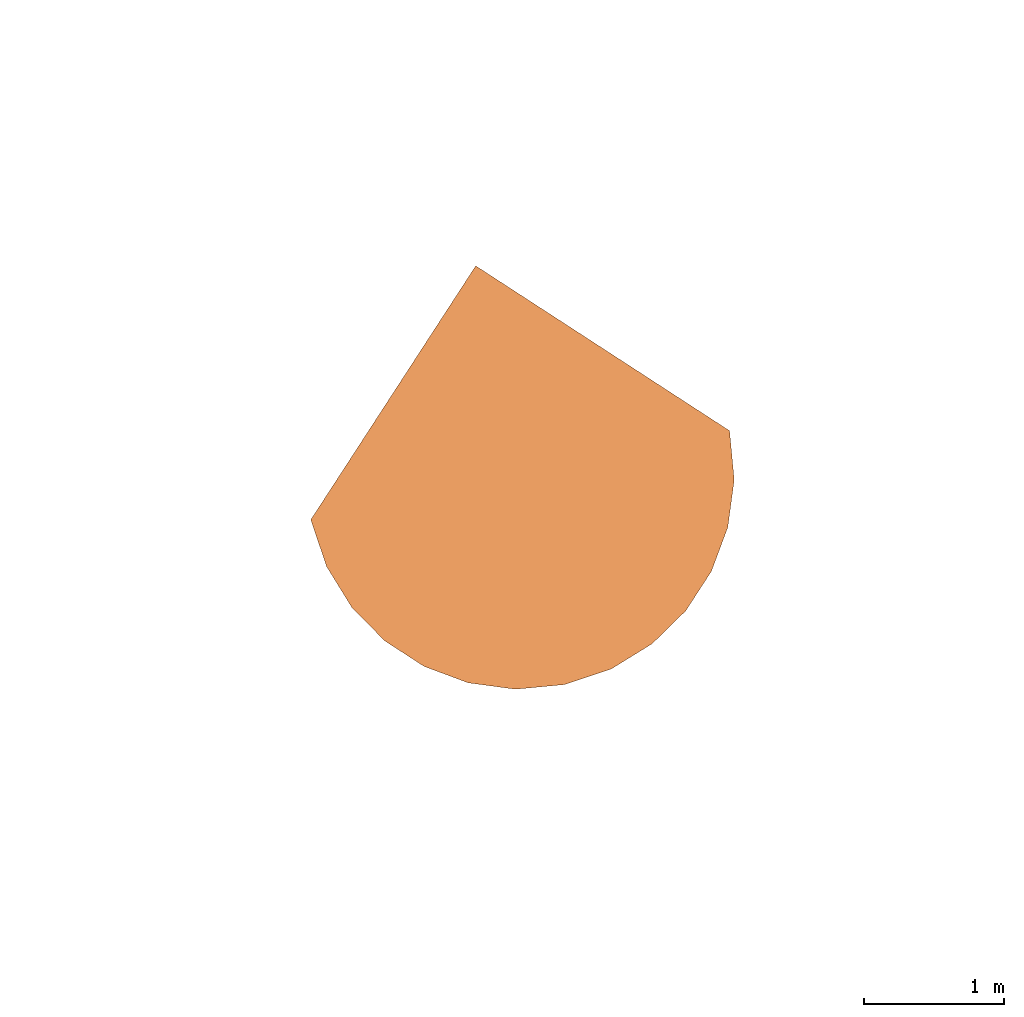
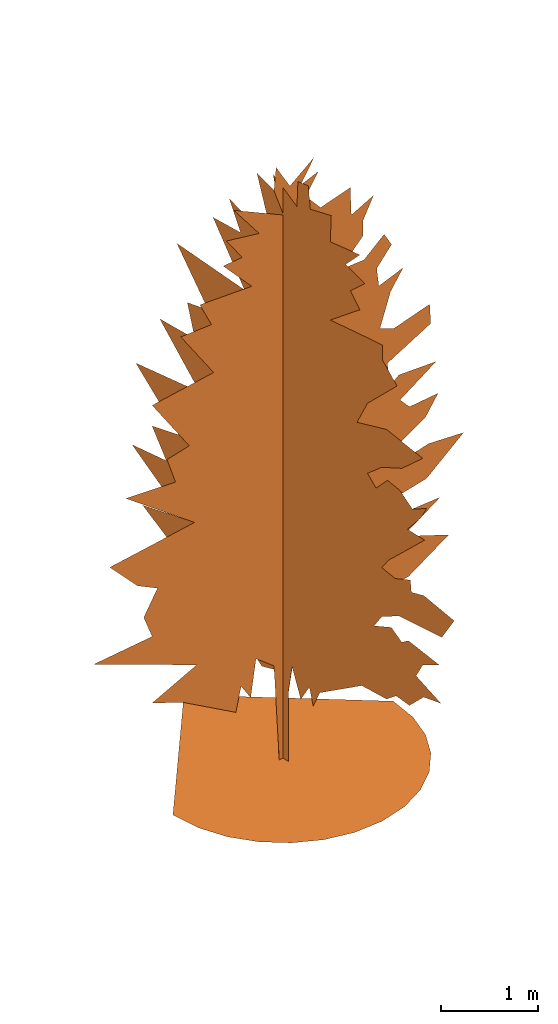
# One storey, part 17 of 17: 1 proxy.
"""IFC2X3 building model written with IfcOpenShell, lengths in centimetres."""

from ifc_helpers import new_model, entity, si_unit, converted_unit, derived_unit, direction, frame, origin, place, context, subcontext, project, spatial, face_set, surface_model, source, transform, mapped, material, type_object, type_shapes, element, save


model = new_model("IFC2X3")

# Units and contexts
model_context = context("Model", 3, precision=0.001, world=origin(), true_north=direction((6.12303176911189e-17, 1.0)))
body_context = subcontext(model_context, "Body", "Model", "MODEL_VIEW")
ifc_project = project(units=[si_unit("LENGTHUNIT", "METRE", prefix="CENTI"), si_unit("AREAUNIT", "SQUARE_METRE"), si_unit("VOLUMEUNIT", "CUBIC_METRE"), converted_unit("PLANEANGLEUNIT", "DEGREE", entity("IfcRatioMeasure", 0.0174532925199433), si_unit("PLANEANGLEUNIT", "RADIAN"), dimensions=[0, 0, 0, 0, 0, 0, 0]), si_unit("MASSUNIT", "GRAM", prefix="KILO"), derived_unit("MASSDENSITYUNIT", [(si_unit("MASSUNIT", "GRAM", prefix="KILO"), 1), (si_unit("LENGTHUNIT", "METRE"), -3)]), derived_unit("IONCONCENTRATIONUNIT", [(si_unit("MASSUNIT", "GRAM", prefix="KILO"), 1), (si_unit("LENGTHUNIT", "METRE"), -3)]), derived_unit("MOMENTOFINERTIAUNIT", [(si_unit("LENGTHUNIT", "METRE"), 4)]), si_unit("TIMEUNIT", "SECOND"), si_unit("FREQUENCYUNIT", "HERTZ"), si_unit("THERMODYNAMICTEMPERATUREUNIT", "DEGREE_CELSIUS"), derived_unit("THERMALTRANSMITTANCEUNIT", [(si_unit("MASSUNIT", "GRAM", prefix="KILO"), 1), (si_unit("THERMODYNAMICTEMPERATUREUNIT", "KELVIN"), -1), (si_unit("TIMEUNIT", "SECOND"), -3)]), derived_unit("THERMALCONDUCTANCEUNIT", [(si_unit("MASSUNIT", "GRAM", prefix="KILO"), 1), (si_unit("THERMODYNAMICTEMPERATUREUNIT", "KELVIN"), -1), (si_unit("TIMEUNIT", "SECOND"), -3), (si_unit("LENGTHUNIT", "METRE"), 1)]), derived_unit("VOLUMETRICFLOWRATEUNIT", [(si_unit("LENGTHUNIT", "METRE"), 3), (si_unit("TIMEUNIT", "SECOND"), -1)]), derived_unit("MASSFLOWRATEUNIT", [(si_unit("MASSUNIT", "GRAM", prefix="KILO"), 1), (si_unit("TIMEUNIT", "SECOND"), -1)]), derived_unit("ROTATIONALFREQUENCYUNIT", [(si_unit("TIMEUNIT", "SECOND"), -1)]), si_unit("ELECTRICCURRENTUNIT", "AMPERE"), si_unit("ELECTRICVOLTAGEUNIT", "VOLT"), si_unit("POWERUNIT", "WATT"), si_unit("FORCEUNIT", "NEWTON", prefix="KILO"), si_unit("ILLUMINANCEUNIT", "LUX"), si_unit("LUMINOUSFLUXUNIT", "LUMEN"), si_unit("LUMINOUSINTENSITYUNIT", "CANDELA"), derived_unit("USERDEFINED", [(si_unit("MASSUNIT", "GRAM", prefix="KILO"), -1), (si_unit("LENGTHUNIT", "METRE"), -2), (si_unit("TIMEUNIT", "SECOND"), 3), (si_unit("LUMINOUSFLUXUNIT", "LUMEN"), 1)]), derived_unit("USERDEFINED", [(si_unit("MASSUNIT", "GRAM", prefix="KILO"), 1), (si_unit("TIMEUNIT", "SECOND"), -3), (si_unit("LENGTHUNIT", "METRE"), 3), (si_unit("ELECTRICCURRENTUNIT", "AMPERE"), -2)]), derived_unit("SOUNDPOWERUNIT", [(si_unit("MASSUNIT", "GRAM", prefix="KILO"), 1), (si_unit("TIMEUNIT", "SECOND"), -3), (si_unit("LENGTHUNIT", "METRE"), 2)]), derived_unit("SOUNDPRESSUREUNIT", [(si_unit("MASSUNIT", "GRAM", prefix="KILO"), 1), (si_unit("LENGTHUNIT", "METRE"), -1), (si_unit("TIMEUNIT", "SECOND"), -2)]), derived_unit("LINEARVELOCITYUNIT", [(si_unit("LENGTHUNIT", "METRE"), 1), (si_unit("TIMEUNIT", "SECOND"), -1)]), si_unit("PRESSUREUNIT", "PASCAL"), derived_unit("USERDEFINED", [(si_unit("MASSUNIT", "GRAM", prefix="KILO"), 1), (si_unit("LENGTHUNIT", "METRE"), -2), (si_unit("TIMEUNIT", "SECOND"), -2)]), derived_unit("LINEARFORCEUNIT", [(si_unit("MASSUNIT", "GRAM", prefix="KILO"), 1), (si_unit("TIMEUNIT", "SECOND"), -2)]), derived_unit("PLANARFORCEUNIT", [(si_unit("MASSUNIT", "GRAM", prefix="KILO"), 1), (si_unit("LENGTHUNIT", "METRE"), -1), (si_unit("TIMEUNIT", "SECOND"), -2)]), derived_unit("SPECIFICHEATCAPACITYUNIT", [(si_unit("THERMODYNAMICTEMPERATUREUNIT", "KELVIN"), -1), (si_unit("LENGTHUNIT", "METRE"), 2), (si_unit("TIMEUNIT", "SECOND"), -2)]), derived_unit("HEATINGVALUEUNIT", [(si_unit("LENGTHUNIT", "METRE"), 2), (si_unit("TIMEUNIT", "SECOND"), -2)]), derived_unit("VAPORPERMEABILITYUNIT", [(si_unit("LENGTHUNIT", "METRE"), -1), (si_unit("TIMEUNIT", "SECOND"), 1)]), derived_unit("DYNAMICVISCOSITYUNIT", [(si_unit("MASSUNIT", "GRAM", prefix="KILO"), 1), (si_unit("TIMEUNIT", "SECOND"), -1), (si_unit("LENGTHUNIT", "METRE"), -1)]), derived_unit("THERMALEXPANSIONCOEFFICIENTUNIT", [(si_unit("THERMODYNAMICTEMPERATUREUNIT", "KELVIN"), -1)]), derived_unit("MODULUSOFELASTICITYUNIT", [(si_unit("MASSUNIT", "GRAM", prefix="KILO"), 1), (si_unit("LENGTHUNIT", "METRE"), -1), (si_unit("TIMEUNIT", "SECOND"), -2)]), derived_unit("ISOTHERMALMOISTURECAPACITYUNIT", [(si_unit("LENGTHUNIT", "METRE"), 3), (si_unit("MASSUNIT", "GRAM", prefix="KILO"), -1)]), derived_unit("MOISTUREDIFFUSIVITYUNIT", [(si_unit("TIMEUNIT", "SECOND"), -1), (si_unit("LENGTHUNIT", "METRE"), 2)])], contexts=[model_context])

# Site, building, storey
site_placement = place(None, frame((14083.8920177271, -6853.25409548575, 6900.0), z_axis=(0.0, 0.0, 1.0), x_axis=(0.978188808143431, 0.207717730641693, 0.0)))
site = spatial("IfcSite", under=ifc_project, at=site_placement, Name="Surface", CompositionType="ELEMENT")
building_placement = place(site_placement, origin())
building = spatial("IfcBuilding", under=site, at=building_placement, CompositionType="ELEMENT")
storey_placement = place(building_placement, origin())
storey = spatial("IfcBuildingStorey", under=building, at=storey_placement, Name="_Rez de chaussée Séjour", CompositionType="ELEMENT", Elevation=2.07727662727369e-10)

# Proxy
ifc_material = material(Name="<Unnamed>")
building_element_proxy_type = type_object("IfcBuildingElementProxyType", Name="PLANTE- Conifères divers:Pin en tige remontée_ Petit", PredefinedType="NOTDEFINED", material=ifc_material)
shared_shape = source(origin(), body_context, "Body", "SurfaceModel", [
    surface_model("IfcFaceBasedSurfaceModel", [(153.210415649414, 1.33923548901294e-05, 1.91891713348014e-05), (0.019647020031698, 153.190751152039, 1.91891713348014e-05), (-153.171086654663, 0.0, 1.91891713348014e-05), (149.160720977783, -35.1012767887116, 1.91891713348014e-05), (-149.121391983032, -35.1012767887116, 1.91891713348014e-05), (137.626643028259, -67.3359916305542, 1.91891713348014e-05), (-137.587314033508, -67.3359916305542, 1.91891713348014e-05), (-119.492931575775, -95.7810140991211, 1.91891713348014e-05), (119.532260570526, -95.7810140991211, 1.91891713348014e-05), (95.8006785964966, -119.512596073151, 1.91891713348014e-05), (-95.7613496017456, -119.512596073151, 1.91891713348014e-05), (-67.3163271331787, -137.606978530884, 1.91891713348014e-05), (-35.0816086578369, -149.141056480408, 1.91891713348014e-05), (0.0196738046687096, -153.190751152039, 1.91891713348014e-05), (35.1209449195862, -149.141056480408, 1.91891713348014e-05), (67.3556561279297, -137.606978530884, 1.91891713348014e-05), (9.49189337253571, -4.27712833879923e-05, 717.584920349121), (43.3818905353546, -4.40009734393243e-05, 738.213079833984), (24.2266553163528, -4.24200324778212e-05, 711.691210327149), (-120.174183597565, -1.03634767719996e-05, 173.870448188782), (-263.101789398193, -1.44034799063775e-05, 241.650511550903), (-182.060486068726, -1.42278241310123e-05, 238.703627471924), (-33.2391084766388, -4.04000330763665e-05, 677.800546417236), (-68.6025785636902, -4.31225342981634e-05, 723.47868850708), (0.650998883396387, -4.0839094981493e-05, 685.166201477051), (-123.121365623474, -2.11661107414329e-05, 355.109661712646), (-218.897380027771, -2.56452390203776e-05, 430.256586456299), (-149.643889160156, -2.49426453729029e-05, 418.469079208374), (164.206982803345, -1.37886981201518e-05, 231.336126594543), (218.725777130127, -1.35252296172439e-05, 226.915800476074), (170.101056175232, -1.21200094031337e-05, 203.340161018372), (161.260098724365, -2.43278627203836e-05, 408.153458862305), (212.832023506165, -2.38887072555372e-05, 400.784693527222), (162.733540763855, -2.23956743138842e-05, 375.737792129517), (-12.6103113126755, -4.3034723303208e-05, 722.003720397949), (-9.66334093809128, -4.47034717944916e-05, 750.000616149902), (133.26414768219, -3.17931487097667e-05, 533.400406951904), (167.154172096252, -3.22322140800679e-05, 540.766062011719), (149.472286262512, -3.09148065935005e-05, 518.662934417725), (49.275644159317, -4.27712833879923e-05, 717.584920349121), (31.5940671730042, -4.13659713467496e-05, 694.009905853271), (-56.8147515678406, -3.92581574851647e-05, 658.644273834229), (-78.91696352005, -4.11025314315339e-05, 689.588024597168), (94.95349193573, -3.82044047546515e-05, 640.963027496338), (125.89664680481, -3.88190921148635e-05, 651.278618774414), (111.161942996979, -3.73259690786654e-05, 626.228636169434), (-139.329504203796, -8.08000626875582e-06, 135.560112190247), (-182.060486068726, -9.22175711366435e-06, 154.715120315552), (-37.6594236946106, -8.51913141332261e-06, 142.927307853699), (-45.0269318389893, -5.79653576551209e-06, 97.2494491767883), (-58.2881899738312, -7.02609933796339e-06, 117.878219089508), (202.517638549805, -1.80043587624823e-05, 302.063044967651), (251.142374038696, -1.7477420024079e-05, 293.222102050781), (199.570449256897, -1.54574188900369e-05, 259.332077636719), (-43.5534934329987, -3.67112782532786e-05, 615.912986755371), (-83.3372751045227, -3.93462803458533e-05, 660.119300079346), (37.4878244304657, -6.41131755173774e-06, 107.563834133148), (28.6470958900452, -5.00609777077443e-06, 83.9881946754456), (13.9123030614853, -6.76263040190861e-06, 113.457900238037), (-202.688936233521, -1.86191396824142e-05, 312.377444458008), (-240.99959197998, -2.10782668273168e-05, 353.634664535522), (183.362310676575, -1.15930403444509e-05, 194.499218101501), (230.513604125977, -1.03634767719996e-05, 173.870448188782), (174.521367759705, -8.78263196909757e-06, 147.3479246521), (-96.5985368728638, -3.17053377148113e-05, 531.925438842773), (-142.276388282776, -3.56575289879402e-05, 598.231740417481), (-99.545413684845, -3.53940925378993e-05, 593.812998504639), (175.995115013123, -2.15174240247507e-05, 361.003400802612), (215.778893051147, -2.14295801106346e-05, 359.528403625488), (198.097007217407, -2.01122038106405e-05, 337.425276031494), (-115.753864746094, -3.73259690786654e-05, 626.228636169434), (152.419155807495, -1.08026339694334e-05, 181.237963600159), (-130.488561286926, -2.71382719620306e-05, 455.303487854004), (-182.060486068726, -3.1617526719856e-05, 530.453551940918), (146.525402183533, -8.78263196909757e-06, 147.3479246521), (-174.692970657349, -1.76530454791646e-05, 296.169305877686), (149.472286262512, -2.38887072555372e-05, 400.784693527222), (140.631343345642, -1.86191396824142e-05, 312.377444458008), (-65.6553892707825, -5.26956670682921e-06, 88.4088187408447), (3.59798237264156, -3.42522156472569e-06, 57.4656711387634), (5.07142145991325, 0.0, 0.0), (-5.24289945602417, 0.0, 0.0), (-12.6103113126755, -7.28956870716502e-06, 122.298843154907), (-161.431716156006, -2.6962646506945e-05, 452.356603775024), (150.945728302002, -1.76530454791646e-05, 296.169305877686), (162.733540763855, -1.52817622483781e-05, 256.385193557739), (52.2228334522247, -3.99609711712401e-05, 670.431810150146), (93.4800498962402, -4.03122186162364e-05, 676.325520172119), (153.89291759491, -2.80165534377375e-05, 470.040989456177), (203.991080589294, -2.84556794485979e-05, 477.406644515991), (205.464522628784, -2.6962646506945e-05, 452.356603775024), (145.05197467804, -2.56452390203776e-05, 430.256586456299), (112.63537776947, -3.43400279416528e-05, 576.128612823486), (140.631343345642, -3.54819035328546e-05, 595.284827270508), (150.945728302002, -3.44278389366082e-05, 577.603580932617), (130.316958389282, -3.3198152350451e-05, 556.975421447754), (134.73758972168, -2.85434921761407e-05, 478.881641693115), (80.2187881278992, -6.32347363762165e-06, 106.090399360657), (64.0106568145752, -5.44522291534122e-06, 91.3556955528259), (-193.848298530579, -1.59843558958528e-05, 268.173020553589), (111.161942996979, -3.61844053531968e-05, 607.072363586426), (78.7453533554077, -3.45156533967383e-05, 579.078607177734), (112.63537776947, -7.37741175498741e-06, 123.772285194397), (0.0196671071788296, -199.752342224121, 418.469079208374), (0.0196671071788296, -221.854554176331, 430.256586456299), (0.0196671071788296, -213.01361125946, 414.04719795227), (0.0196671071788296, -205.646095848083, 210.707356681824), (0.0196671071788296, -243.95676612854, 195.972660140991), (0.0196671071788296, -217.433922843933, 190.078906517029), (0.0196671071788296, -193.85828338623, 249.017997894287), (0.0196671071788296, -241.009562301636, 243.123939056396), (0.0196671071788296, -215.960480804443, 229.862684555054), (0.0196671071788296, -73.0331802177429, 689.588024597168), (0.0196671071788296, -118.711031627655, 696.956819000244), (0.0196671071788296, -96.6088269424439, 673.378665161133), (0.0196671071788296, 152.40918548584, 222.495183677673), (0.0196671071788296, 233.450503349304, 274.067108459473), (0.0196671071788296, 180.405151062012, 281.434594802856), (0.0196671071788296, -56.8247327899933, 111.984465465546), (0.0196671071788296, -46.5103514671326, 89.8822607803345), (0.0196671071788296, -40.616594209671, 110.511023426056), (0.0196671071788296, 143.56824256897, 165.029505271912), (0.0196671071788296, 217.242045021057, 206.287045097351), (0.0196671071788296, 65.4738015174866, 629.17549118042), (0.0196671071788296, 83.1556946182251, 663.066155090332), (0.0196671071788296, 13.9021365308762, 639.491140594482), (0.0196671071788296, -192.384841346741, 388.997186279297), (0.0196671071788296, -218.907364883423, 388.997186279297), (0.0196671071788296, -162.915448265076, 334.478391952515), (0.0196671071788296, 10.9551961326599, 708.744297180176), (0.0196671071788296, 15.3756058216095, 729.372456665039), (0.0196671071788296, -21.4613299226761, 707.269329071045), (0.0196671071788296, 128.833546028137, 394.890954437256), (0.0196671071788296, 190.719521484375, 455.303487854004), (0.0196671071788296, 136.200727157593, 458.250371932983), (0.0196671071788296, 115.572276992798, 505.403511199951), (0.0196671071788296, 164.197012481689, 564.341076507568), (0.0196671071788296, 59.5800478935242, 559.922334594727), (0.0196671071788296, 161.25012840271, 324.165881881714), (0.0196671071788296, 227.556429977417, 380.156563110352), (0.0196671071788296, -159.968258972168, 498.034774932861), (0.0196671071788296, -215.960480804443, 490.669119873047), (0.0196671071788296, -183.543898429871, 461.200366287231), (0.0196671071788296, -27.3552397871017, 88.4088187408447), (0.0196671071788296, -14.0939489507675, 122.298843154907), (0.0196671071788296, 22.7430176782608, 666.013010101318), (0.0196671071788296, 40.4247200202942, 717.584920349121), (0.0196671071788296, 118.519153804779, 98.7232036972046), (0.0196671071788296, 193.666405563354, 141.453865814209), (0.0196671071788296, 108.204776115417, 626.228636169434), (0.0196671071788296, -126.078220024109, 664.538041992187), (0.0196671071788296, -103.976022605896, 643.909882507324), (0.0196671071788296, -217.433922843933, 318.272142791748), (0.0196671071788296, -264.585216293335, 310.903987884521), (0.0196671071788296, -245.430193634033, 279.960847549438), (0.0196671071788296, -179.123586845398, 272.593651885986), (0.0196671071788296, -198.278914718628, 312.377444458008), (0.0196671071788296, 202.507348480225, 313.850261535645), (0.0196671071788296, -173.229513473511, 316.797116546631), (0.0196671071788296, -196.805152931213, 327.112765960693), (0.0196671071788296, -42.0900326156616, 714.638065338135), (0.0196671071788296, -74.5066222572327, 723.47868850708), (0.0196671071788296, -152.601063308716, 446.462864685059), (0.0196671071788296, -114.290407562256, 483.300383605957), (0.0196671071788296, 52.2125433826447, 114.931342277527), (0.0196671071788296, 56.6328586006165, 82.5147526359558), (0.0196671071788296, -117.237596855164, 596.759853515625), (0.0196671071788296, -154.074505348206, 601.178595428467), (0.0196671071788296, -154.074505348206, 582.025462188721), (0.0196671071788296, -130.498851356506, 427.309702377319), (0.0196671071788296, -22.9348300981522, 739.68496673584), (0.0196671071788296, -39.1431558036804, 742.631821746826), (0.0196671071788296, 147.988554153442, 498.034774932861), (0.0196671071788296, -118.711031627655, 627.700523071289), (0.0196671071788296, -73.0331802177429, 590.866085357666), (0.0196671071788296, -176.176702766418, 561.394221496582), (0.0196671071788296, -130.498851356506, 515.716021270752), (0.0196671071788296, -8.20003817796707, 88.4088187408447), (0.0196671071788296, -8.20003817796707, 1.91891713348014e-05), (0.0196671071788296, 6.53472376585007, 1.91891713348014e-05), (0.0196671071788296, 10.9551961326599, 79.5678758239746), (0.0196671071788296, 13.9021365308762, 104.616957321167), (0.0196671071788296, -183.543898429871, 241.650511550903), (0.0196671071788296, -195.33172542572, 167.976694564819), (0.0196671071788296, -174.703260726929, 169.450136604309), (0.0196671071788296, -152.601063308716, 319.74400062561), (0.0196671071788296, -152.601063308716, 257.858650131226), (0.0196671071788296, -180.597014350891, 431.728473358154), (0.0196671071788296, -161.441686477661, 434.675357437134), (0.0196671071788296, -143.760120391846, 415.522195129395), (0.0196671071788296, -167.335759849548, 251.964881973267), (0.0196671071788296, -140.813236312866, 240.177069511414), (0.0196671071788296, -159.968258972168, 157.662309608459), (0.0196671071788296, -121.657908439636, 154.715120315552), (0.0196671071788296, 33.0572155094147, 98.7232036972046)], [face_set([[[0, 1, 2]], [[3, 0, 2]], [[3, 2, 4]], [[5, 3, 4]], [[5, 4, 6]], [[5, 6, 7]], [[8, 5, 7]], [[9, 8, 7]], [[9, 7, 10]], [[9, 10, 11]], [[9, 11, 12]], [[9, 12, 13]], [[9, 13, 14]], [[9, 14, 15]], [[16, 17, 18]], [[19, 20, 21]], [[22, 23, 24]], [[25, 26, 27]], [[28, 29, 30]], [[31, 32, 33]], [[34, 35, 16]], [[36, 37, 38]], [[18, 39, 40]], [[41, 42, 22]], [[43, 44, 45]], [[46, 47, 19]], [[48, 49, 50]], [[51, 52, 53]], [[54, 55, 41]], [[56, 57, 58]], [[59, 60, 25]], [[61, 62, 63]], [[64, 65, 66]], [[67, 68, 69]], [[66, 70, 54]], [[71, 61, 63]], [[72, 73, 64]], [[71, 63, 74]], [[75, 59, 25]], [[24, 34, 16]], [[76, 31, 33]], [[67, 69, 77]], [[50, 78, 46]], [[79, 80, 81]], [[79, 81, 82]], [[58, 79, 82]], [[50, 46, 19]], [[27, 83, 72]], [[84, 51, 53]], [[84, 53, 85]], [[24, 16, 18]], [[24, 18, 40]], [[86, 87, 43]], [[88, 89, 90]], [[88, 90, 91]], [[92, 93, 94]], [[92, 94, 95]], [[48, 50, 19]], [[33, 67, 77]], [[96, 88, 91]], [[97, 98, 56]], [[64, 66, 54]], [[54, 41, 22]], [[54, 22, 24]], [[36, 38, 96]], [[24, 40, 86]], [[54, 24, 86]], [[54, 86, 43]], [[21, 99, 75]], [[54, 43, 45]], [[54, 45, 100]], [[54, 100, 101]], [[64, 54, 101]], [[72, 64, 101]], [[19, 21, 75]], [[19, 75, 25]], [[48, 19, 25]], [[28, 30, 71]], [[25, 27, 72]], [[25, 72, 101]], [[48, 25, 101]], [[48, 101, 92]], [[48, 92, 95]], [[48, 95, 36]], [[48, 36, 96]], [[48, 96, 91]], [[48, 91, 76]], [[48, 76, 33]], [[48, 33, 77]], [[48, 77, 84]], [[48, 84, 85]], [[48, 85, 28]], [[48, 28, 71]], [[82, 48, 71]], [[58, 82, 71]], [[56, 58, 71]], [[97, 56, 71]], [[102, 97, 71]], [[74, 102, 71]], [[103, 104, 105]], [[106, 107, 108]], [[109, 110, 111]], [[112, 113, 114]], [[115, 116, 117]], [[118, 119, 120]], [[121, 122, 115]], [[123, 124, 125]], [[126, 127, 128]], [[129, 130, 131]], [[132, 133, 134]], [[135, 136, 137]], [[138, 139, 132]], [[140, 141, 142]], [[120, 143, 144]], [[145, 146, 129]], [[147, 148, 121]], [[137, 149, 123]], [[114, 150, 151]], [[152, 153, 154]], [[152, 154, 155]], [[156, 152, 155]], [[103, 105, 126]], [[117, 157, 138]], [[158, 159, 156]], [[160, 161, 112]], [[158, 156, 155]], [[140, 142, 162]], [[163, 140, 162]], [[164, 165, 147]], [[166, 167, 168]], [[163, 162, 169]], [[170, 171, 160]], [[131, 170, 160]], [[134, 172, 135]], [[151, 173, 174]], [[168, 175, 176]], [[177, 178, 179]], [[177, 179, 180]], [[177, 180, 181]], [[144, 177, 181]], [[166, 168, 176]], [[174, 166, 176]], [[137, 123, 125]], [[164, 147, 121]], [[109, 111, 106]], [[182, 109, 106]], [[145, 129, 131]], [[106, 108, 183]], [[106, 183, 184]], [[185, 158, 155]], [[185, 155, 186]], [[182, 106, 184]], [[187, 103, 126]], [[188, 187, 126]], [[189, 188, 126]], [[189, 126, 128]], [[125, 145, 131]], [[190, 182, 184]], [[191, 190, 184]], [[191, 184, 192]], [[191, 192, 193]], [[174, 176, 163]], [[131, 160, 112]], [[125, 131, 112]], [[125, 112, 114]], [[125, 114, 151]], [[125, 151, 174]], [[137, 125, 174]], [[137, 174, 163]], [[135, 137, 163]], [[134, 135, 163]], [[132, 134, 163]], [[132, 163, 169]], [[138, 132, 169]], [[138, 169, 189]], [[138, 189, 128]], [[138, 128, 185]], [[138, 185, 186]], [[138, 186, 191]], [[138, 191, 193]], [[138, 193, 118]], [[138, 118, 120]], [[138, 120, 144]], [[117, 138, 144]], [[115, 117, 144]], [[121, 115, 144]], [[164, 121, 144]], [[164, 144, 181]], [[194, 164, 181]]])]),
])
type_shapes(building_element_proxy_type, [shared_shape])
proxy_placement = place(storey_placement, frame((-5790.97481040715, 16614.6673447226, -71.5001461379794)))
element("IfcBuildingElementProxy", 1, at=proxy_placement, inside=storey, type_object=building_element_proxy_type, material=ifc_material, Name="PLANTE- Conifères divers:Pin en tige remontée_ Petit", ObjectType="PLANTE- Conifères divers:Pin en tige remontée_ Petit", context=body_context, shape_type="MappedRepresentation", body=[
    mapped(shared_shape, transform((0.0, 0.0, 0.0), scale=1.0)),
])

save(model, "model.ifc")
